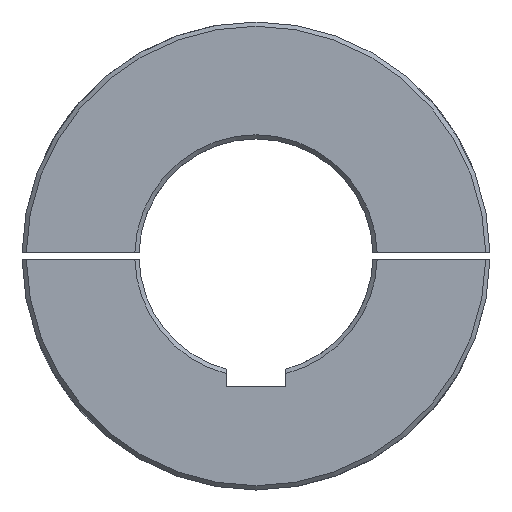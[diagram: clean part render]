
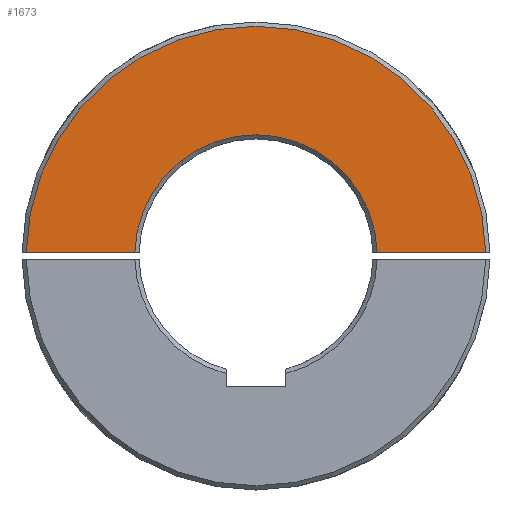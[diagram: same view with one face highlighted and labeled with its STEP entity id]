
A CAD part, front view. The second image highlights one B-rep face of the part: STEP entity #1673.
In plain terms, the highlighted planar face has unit normal (0, -1, 0).
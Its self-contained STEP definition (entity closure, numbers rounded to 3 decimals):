
#88 = CARTESIAN_POINT ( 'NONE',  ( 56.98, 0., 1.5 ) ) ;
#499 = CARTESIAN_POINT ( 'NONE',  ( 115., 0., 1.5 ) ) ;
#675 = VERTEX_POINT ( 'NONE', #1103 ) ;
#694 = CIRCLE ( 'NONE', #3845, 108. ) ;
#1049 = CARTESIAN_POINT ( 'NONE',  ( 0., 0., 0. ) ) ;
#1083 = CIRCLE ( 'NONE', #3097, 57. ) ;
#1103 = CARTESIAN_POINT ( 'NONE',  ( -56.98, 0., 1.5 ) ) ;
#1140 = EDGE_CURVE ( 'NONE', #675, #4517, #1083, .T. ) ;
#1401 = FACE_OUTER_BOUND ( 'NONE', #3100, .T. ) ;
#1526 = CARTESIAN_POINT ( 'NONE',  ( 0., 0., 0. ) ) ;
#1548 = LINE ( 'NONE', #499, #4310 ) ;
#1604 = LINE ( 'NONE', #2724, #2074 ) ;
#1673 = ADVANCED_FACE ( 'NONE', ( #1401 ), #2991, .F. ) ;
#1939 = VERTEX_POINT ( 'NONE', #2574 ) ;
#2074 = VECTOR ( 'NONE', #2614, 1000. ) ;
#2456 = EDGE_CURVE ( 'NONE', #675, #1939, #1548, .T. ) ;
#2574 = CARTESIAN_POINT ( 'NONE',  ( -107.99, 0., 1.5 ) ) ;
#2614 = DIRECTION ( 'NONE',  ( -1., 0., 0. ) ) ;
#2618 = AXIS2_PLACEMENT_3D ( 'NONE', #1049, #3974, #4359 ) ;
#2639 = DIRECTION ( 'NONE',  ( 0., -1., 0. ) ) ;
#2724 = CARTESIAN_POINT ( 'NONE',  ( 115., 0., 1.5 ) ) ;
#2881 = ORIENTED_EDGE ( 'NONE', *, *, #1140, .T. ) ;
#2991 = PLANE ( 'NONE',  #2618 ) ;
#3006 = DIRECTION ( 'NONE',  ( 0., 0., 1. ) ) ;
#3062 = DIRECTION ( 'NONE',  ( 0., 0., 1. ) ) ;
#3079 = DIRECTION ( 'NONE',  ( -1., 0., 0. ) ) ;
#3097 = AXIS2_PLACEMENT_3D ( 'NONE', #3389, #3771, #3062 ) ;
#3100 = EDGE_LOOP ( 'NONE', ( #3792, #4605, #2881, #4167 ) ) ;
#3339 = CARTESIAN_POINT ( 'NONE',  ( 107.99, 0., 1.5 ) ) ;
#3389 = CARTESIAN_POINT ( 'NONE',  ( 0., 0., 0. ) ) ;
#3532 = EDGE_CURVE ( 'NONE', #4152, #1939, #694, .T. ) ;
#3771 = DIRECTION ( 'NONE',  ( 0., 1., 0. ) ) ;
#3792 = ORIENTED_EDGE ( 'NONE', *, *, #3532, .T. ) ;
#3845 = AXIS2_PLACEMENT_3D ( 'NONE', #1526, #2639, #3006 ) ;
#3974 = DIRECTION ( 'NONE',  ( 0., 1., 0. ) ) ;
#4152 = VERTEX_POINT ( 'NONE', #3339 ) ;
#4166 = EDGE_CURVE ( 'NONE', #4152, #4517, #1604, .T. ) ;
#4167 = ORIENTED_EDGE ( 'NONE', *, *, #4166, .F. ) ;
#4310 = VECTOR ( 'NONE', #3079, 1000. ) ;
#4359 = DIRECTION ( 'NONE',  ( 0., 0., 1. ) ) ;
#4517 = VERTEX_POINT ( 'NONE', #88 ) ;
#4605 = ORIENTED_EDGE ( 'NONE', *, *, #2456, .F. ) ;
